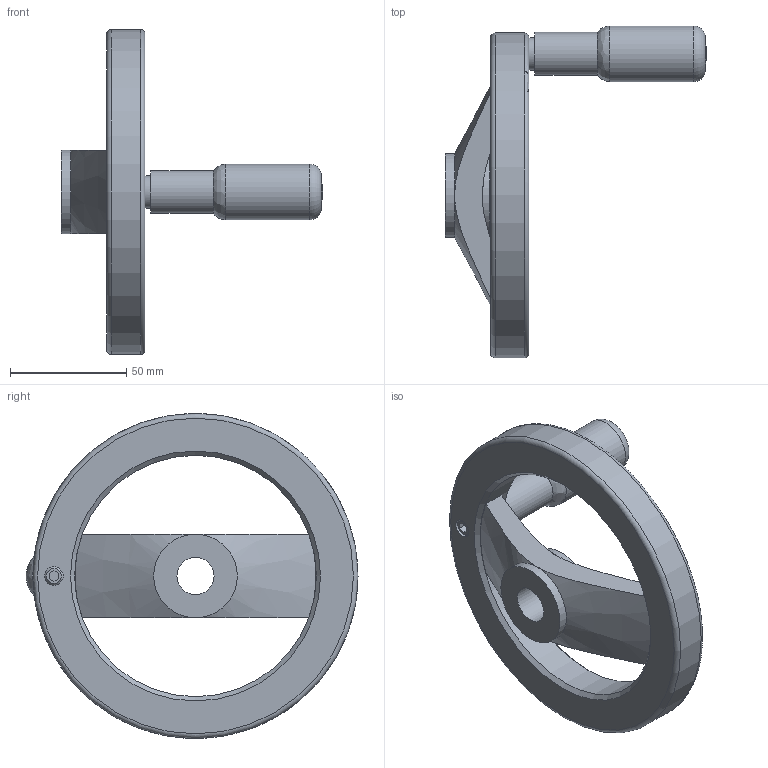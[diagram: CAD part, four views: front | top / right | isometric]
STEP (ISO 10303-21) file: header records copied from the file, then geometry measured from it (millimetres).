
FILE_DESCRIPTION( ( 'STEP AP203' ), '1' );
FILE_NAME( 'C:/Temp/Ganter_Step_05_03_2020/data/1_3/gn_324/gn_324_b/gn_324_b_d/Handwheel, matt black GN 324-140-B16-R.stp', '2020-03-05T10:32:56', ( 'License CC BY-ND 4.0' ), ( 'CADENAS' ), ' ', 'PARTsolutions', ' ' );
FILE_SCHEMA( ( 'CONFIG_CONTROL_DESIGN' ) );
Length unit declared in the file: millimetre
Products named in the file (1): _Handwheel, matt black GN 324-140-B16-R
Bounding box: 112.5 x 143 x 140 mm (x, y, z)
Volume: 184118 mm3; surface area: 41561.3 mm2
Topology: 1 solids, 2 shells, 40 faces, 88 edges, 53 vertices
Faces by surface type: plane 16, cylinder 11, cone 8, torus 3, bspline 1, sphere 1
Full cylindrical faces by diameter (mm): 6.446 x1, 8 x2, 14 x1, 16 x1, 18.5 x1, 24 x1, 36 x2, 104 x1, 140 x1
Entity records: 1171 total; most frequent: CARTESIAN_POINT 330, DIRECTION 170, ORIENTED_EDGE 128, AXIS2_PLACEMENT_3D 74, EDGE_LOOP 69, EDGE_CURVE 64, FACE_OUTER_BOUND 55, VERTEX_POINT 50
